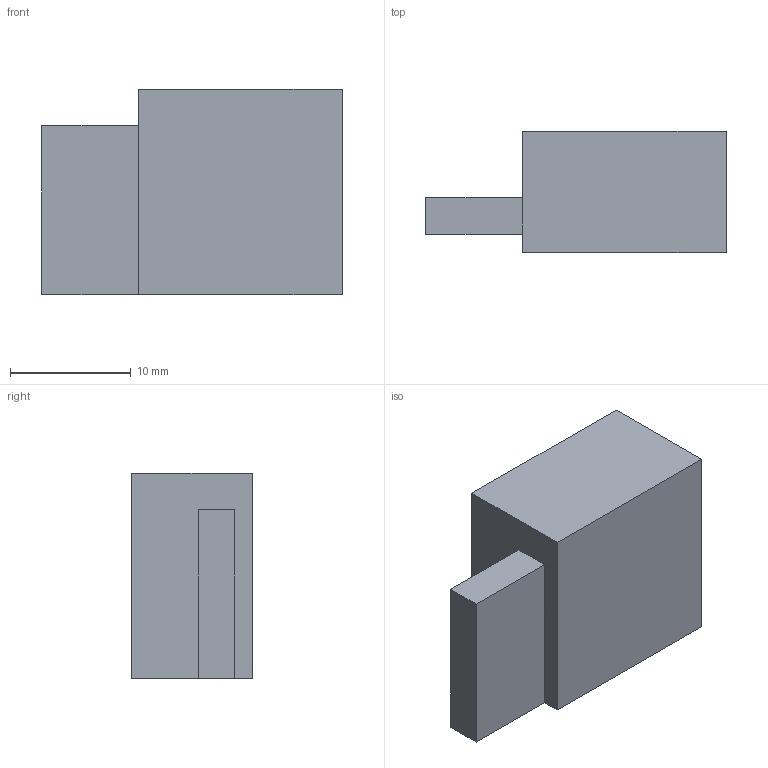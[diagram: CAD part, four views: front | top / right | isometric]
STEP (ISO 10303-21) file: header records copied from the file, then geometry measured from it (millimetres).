
FILE_DESCRIPTION(('Open CASCADE Model'),'2;1');
FILE_NAME('Open CASCADE Shape Model','2026-10-21T18:57:51',('Author'),( 'Open CASCADE'),'Open CASCADE STEP processor 8.0','build123d', 'Unknown');
FILE_SCHEMA(('AUTOMOTIVE_DESIGN { 1 0 10303 214 1 1 1 1 }'));
Length unit declared in the file: millimetre
Products named in the file (1): SOLID
Bounding box: 24.9 x 10 x 17 mm (x, y, z)
Volume: 3209 mm3; surface area: 1524.6 mm2
Topology: 1 solids, 1 shells, 10 faces, 24 edges, 16 vertices
Faces by surface type: plane 10
Entity records: 602 total; most frequent: CARTESIAN_POINT 107, DIRECTION 86, LINE 64, VECTOR 64, ORIENTED_EDGE 48, PCURVE 48, DEFINITIONAL_REPRESENTATION 48, EDGE_CURVE 24
